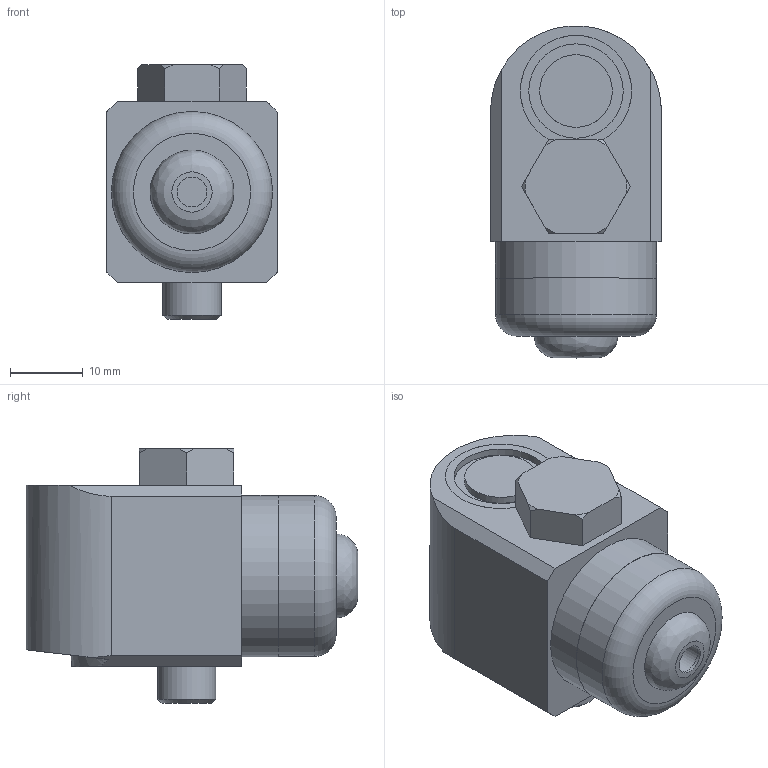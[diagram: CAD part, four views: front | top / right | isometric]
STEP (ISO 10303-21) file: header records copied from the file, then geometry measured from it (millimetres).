
FILE_DESCRIPTION(/* description */ (''),/* implementation_level */ '2;1');
FILE_NAME(/* name */ 'Z:\Engineering\Drawings\3D Library\Assemblies\Website\Premium Side\Compact\HS-170 Side Braided\HS-170SXXX0208.stp',/* time_stamp */ '2023-03-20T15:51:56+00:00',/* author */ ('Ricardo.Peneda'),/* organization */ (''),/* preprocessor_version */ 'ST-DEVELOPER v18.1',/* originating_system */ 'Autodesk Inventor 2021',/* authorisation */ '');
FILE_SCHEMA (('AUTOMOTIVE_DESIGN { 1 0 10303 214 3 1 1 }'));
Length unit declared in the file: inch
Products named in the file (1): HS-170SXXX0208_Shrinkwrap_1
Bounding box: 23.5 x 45.73 x 35 mm (x, y, z)
Volume: 14967.5 mm3; surface area: 9532.7 mm2
Topology: 4 solids, 4 shells, 73 faces, 187 edges, 135 vertices
Faces by surface type: plane 36, cylinder 25, cone 10, torus 1, bspline 1
Full cylindrical faces by diameter (mm): 2.5 x1, 4.2 x1, 6 x1, 6.4 x1, 7 x1, 8 x1, 10 x1, 13 x1, 13.941 x1, 14.9 x1, 15.34 x1, 15.35 x1, 17.941 x1, 19.891 x1, 20 x1, 22.141 x1, 22.2 x1
Entity records: 2486 total; most frequent: CARTESIAN_POINT 475, DIRECTION 427, ORIENTED_EDGE 374, EDGE_CURVE 187, AXIS2_PLACEMENT_3D 181, VERTEX_POINT 135, CIRCLE 97, EDGE_LOOP 92
